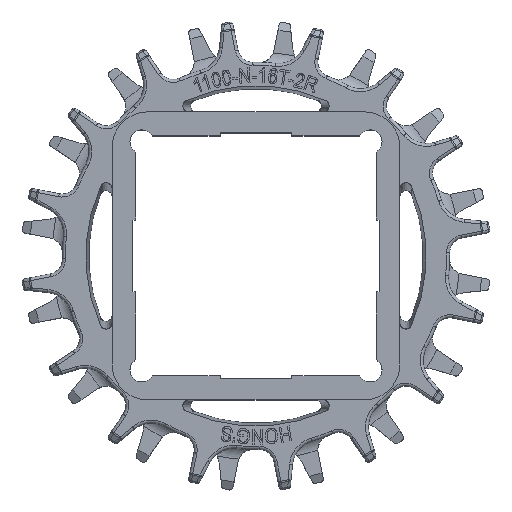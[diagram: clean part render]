
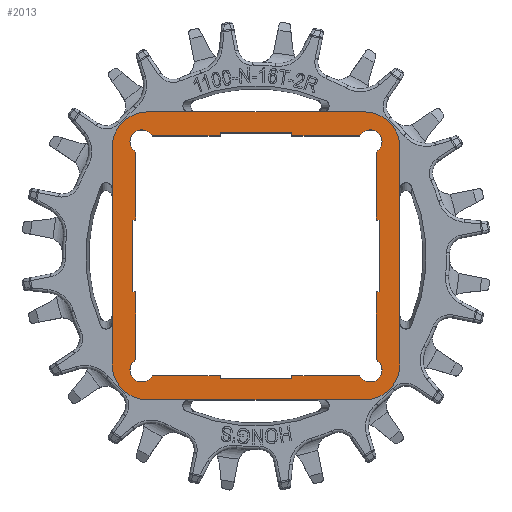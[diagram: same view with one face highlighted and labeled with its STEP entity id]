
A CAD part, top view. The second image highlights one B-rep face of the part: STEP entity #2013.
In plain terms, the highlighted planar face has unit normal (0, 0, 1).
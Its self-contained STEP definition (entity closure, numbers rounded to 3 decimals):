
#2013=ADVANCED_FACE('',(#4926,#4927),#3029,.T.);
#3029=PLANE('',#18068);
#3455=CIRCLE('',#17965,6.);
#3459=CIRCLE('',#17971,2.);
#3542=CIRCLE('',#18062,2.);
#3543=CIRCLE('',#18063,2.);
#3544=CIRCLE('',#18064,2.);
#3545=CIRCLE('',#18065,6.);
#3546=CIRCLE('',#18066,6.);
#3547=CIRCLE('',#18067,6.);
#4926=FACE_BOUND('',#5049,.T.);
#4927=FACE_BOUND('',#5050,.T.);
#5049=EDGE_LOOP('',(#7049,#7050,#7051,#7052,#7053,#7054,#7055,#7056,#7057,
#7058,#7059,#7060,#7061,#7062,#7063,#7064,#7065,#7066,#7067,#7068,#7069,
#7070,#7071,#7072));
#5050=EDGE_LOOP('',(#7073,#7074,#7075,#7076,#7077,#7078,#7079,#7080));
#7049=ORIENTED_EDGE('',*,*,#13439,.T.);
#7050=ORIENTED_EDGE('',*,*,#13643,.T.);
#7051=ORIENTED_EDGE('',*,*,#13644,.T.);
#7052=ORIENTED_EDGE('',*,*,#13645,.T.);
#7053=ORIENTED_EDGE('',*,*,#13646,.T.);
#7054=ORIENTED_EDGE('',*,*,#13647,.T.);
#7055=ORIENTED_EDGE('',*,*,#13648,.F.);
#7056=ORIENTED_EDGE('',*,*,#13649,.T.);
#7057=ORIENTED_EDGE('',*,*,#13650,.T.);
#7058=ORIENTED_EDGE('',*,*,#13651,.T.);
#7059=ORIENTED_EDGE('',*,*,#13652,.T.);
#7060=ORIENTED_EDGE('',*,*,#13653,.T.);
#7061=ORIENTED_EDGE('',*,*,#13654,.T.);
#7062=ORIENTED_EDGE('',*,*,#13655,.T.);
#7063=ORIENTED_EDGE('',*,*,#13656,.T.);
#7064=ORIENTED_EDGE('',*,*,#13657,.T.);
#7065=ORIENTED_EDGE('',*,*,#13658,.T.);
#7066=ORIENTED_EDGE('',*,*,#13659,.T.);
#7067=ORIENTED_EDGE('',*,*,#13660,.T.);
#7068=ORIENTED_EDGE('',*,*,#13661,.T.);
#7069=ORIENTED_EDGE('',*,*,#13662,.F.);
#7070=ORIENTED_EDGE('',*,*,#13500,.T.);
#7071=ORIENTED_EDGE('',*,*,#13447,.T.);
#7072=ORIENTED_EDGE('',*,*,#13435,.T.);
#7073=ORIENTED_EDGE('',*,*,#13663,.T.);
#7074=ORIENTED_EDGE('',*,*,#13274,.T.);
#7075=ORIENTED_EDGE('',*,*,#13442,.T.);
#7076=ORIENTED_EDGE('',*,*,#13499,.T.);
#7077=ORIENTED_EDGE('',*,*,#13664,.T.);
#7078=ORIENTED_EDGE('',*,*,#13665,.T.);
#7079=ORIENTED_EDGE('',*,*,#13666,.T.);
#7080=ORIENTED_EDGE('',*,*,#13667,.T.);
#11680=VERTEX_POINT('',#26295);
#11681=VERTEX_POINT('',#26297);
#11803=VERTEX_POINT('',#27036);
#11804=VERTEX_POINT('',#27038);
#11806=VERTEX_POINT('',#27044);
#11808=VERTEX_POINT('',#27050);
#11812=VERTEX_POINT('',#27062);
#11856=VERTEX_POINT('',#27365);
#11857=VERTEX_POINT('',#27369);
#11994=VERTEX_POINT('',#27844);
#11995=VERTEX_POINT('',#27846);
#11996=VERTEX_POINT('',#27848);
#11997=VERTEX_POINT('',#27850);
#11998=VERTEX_POINT('',#27852);
#11999=VERTEX_POINT('',#27854);
#12000=VERTEX_POINT('',#27856);
#12001=VERTEX_POINT('',#27858);
#12002=VERTEX_POINT('',#27860);
#12003=VERTEX_POINT('',#27862);
#12004=VERTEX_POINT('',#27864);
#12005=VERTEX_POINT('',#27866);
#12006=VERTEX_POINT('',#27868);
#12007=VERTEX_POINT('',#27870);
#12008=VERTEX_POINT('',#27872);
#12009=VERTEX_POINT('',#27874);
#12010=VERTEX_POINT('',#27876);
#12011=VERTEX_POINT('',#27878);
#12012=VERTEX_POINT('',#27880);
#12013=VERTEX_POINT('',#27883);
#12014=VERTEX_POINT('',#27885);
#12015=VERTEX_POINT('',#27887);
#12016=VERTEX_POINT('',#27889);
#13274=EDGE_CURVE('',#11681,#11680,#15668,.T.);
#13435=EDGE_CURVE('',#11804,#11803,#15693,.T.);
#13439=EDGE_CURVE('',#11803,#11806,#15697,.T.);
#13442=EDGE_CURVE('',#11680,#11808,#3455,.T.);
#13447=EDGE_CURVE('',#11812,#11804,#3459,.T.);
#13499=EDGE_CURVE('',#11808,#11856,#15707,.T.);
#13500=EDGE_CURVE('',#11857,#11812,#15708,.T.);
#13643=EDGE_CURVE('',#11806,#11994,#15782,.T.);
#13644=EDGE_CURVE('',#11994,#11995,#15783,.T.);
#13645=EDGE_CURVE('',#11995,#11996,#15784,.T.);
#13646=EDGE_CURVE('',#11996,#11997,#3542,.T.);
#13647=EDGE_CURVE('',#11997,#11998,#15785,.T.);
#13648=EDGE_CURVE('',#11999,#11998,#15786,.T.);
#13649=EDGE_CURVE('',#11999,#12000,#15787,.T.);
#13650=EDGE_CURVE('',#12000,#12001,#15788,.T.);
#13651=EDGE_CURVE('',#12001,#12002,#15789,.T.);
#13652=EDGE_CURVE('',#12002,#12003,#3543,.T.);
#13653=EDGE_CURVE('',#12003,#12004,#15790,.T.);
#13654=EDGE_CURVE('',#12004,#12005,#15791,.T.);
#13655=EDGE_CURVE('',#12005,#12006,#15792,.T.);
#13656=EDGE_CURVE('',#12006,#12007,#15793,.T.);
#13657=EDGE_CURVE('',#12007,#12008,#15794,.T.);
#13658=EDGE_CURVE('',#12008,#12009,#3544,.T.);
#13659=EDGE_CURVE('',#12009,#12010,#15795,.T.);
#13660=EDGE_CURVE('',#12010,#12011,#15796,.T.);
#13661=EDGE_CURVE('',#12011,#12012,#15797,.T.);
#13662=EDGE_CURVE('',#11857,#12012,#15798,.T.);
#13663=EDGE_CURVE('',#12013,#11681,#3545,.T.);
#13664=EDGE_CURVE('',#11856,#12014,#3546,.T.);
#13665=EDGE_CURVE('',#12014,#12015,#15799,.T.);
#13666=EDGE_CURVE('',#12015,#12016,#3547,.T.);
#13667=EDGE_CURVE('',#12016,#12013,#15800,.T.);
#15668=LINE('',#26296,#16772);
#15693=LINE('',#27037,#16797);
#15697=LINE('',#27046,#16801);
#15707=LINE('',#27366,#16811);
#15708=LINE('',#27368,#16812);
#15782=LINE('',#27843,#16886);
#15783=LINE('',#27845,#16887);
#15784=LINE('',#27847,#16888);
#15785=LINE('',#27851,#16889);
#15786=LINE('',#27853,#16890);
#15787=LINE('',#27855,#16891);
#15788=LINE('',#27857,#16892);
#15789=LINE('',#27859,#16893);
#15790=LINE('',#27863,#16894);
#15791=LINE('',#27865,#16895);
#15792=LINE('',#27867,#16896);
#15793=LINE('',#27869,#16897);
#15794=LINE('',#27871,#16898);
#15795=LINE('',#27875,#16899);
#15796=LINE('',#27877,#16900);
#15797=LINE('',#27879,#16901);
#15798=LINE('',#27881,#16902);
#15799=LINE('',#27886,#16903);
#15800=LINE('',#27890,#16904);
#16772=VECTOR('',#20082,1.);
#16797=VECTOR('',#20339,1.);
#16801=VECTOR('',#20345,1.);
#16811=VECTOR('',#20421,1.);
#16812=VECTOR('',#20424,1.);
#16886=VECTOR('',#20626,1.);
#16887=VECTOR('',#20627,1.);
#16888=VECTOR('',#20628,1.);
#16889=VECTOR('',#20631,1.);
#16890=VECTOR('',#20632,1.);
#16891=VECTOR('',#20633,1.);
#16892=VECTOR('',#20634,1.);
#16893=VECTOR('',#20635,1.);
#16894=VECTOR('',#20638,1.);
#16895=VECTOR('',#20639,1.);
#16896=VECTOR('',#20640,1.);
#16897=VECTOR('',#20641,1.);
#16898=VECTOR('',#20642,1.);
#16899=VECTOR('',#20645,1.);
#16900=VECTOR('',#20646,1.);
#16901=VECTOR('',#20647,1.);
#16902=VECTOR('',#20648,1.);
#16903=VECTOR('',#20653,1.);
#16904=VECTOR('',#20656,1.);
#17965=AXIS2_PLACEMENT_3D('',#27051,#20350,#20351);
#17971=AXIS2_PLACEMENT_3D('',#27061,#20363,#20364);
#18062=AXIS2_PLACEMENT_3D('',#27849,#20629,#20630);
#18063=AXIS2_PLACEMENT_3D('',#27861,#20636,#20637);
#18064=AXIS2_PLACEMENT_3D('',#27873,#20643,#20644);
#18065=AXIS2_PLACEMENT_3D('',#27882,#20649,#20650);
#18066=AXIS2_PLACEMENT_3D('',#27884,#20651,#20652);
#18067=AXIS2_PLACEMENT_3D('',#27888,#20654,#20655);
#18068=AXIS2_PLACEMENT_3D('',#27891,#20657,#20658);
#20082=DIRECTION('',(-1.,0.,0.));
#20339=DIRECTION('',(1.,0.,0.));
#20345=DIRECTION('',(0.,1.,0.));
#20350=DIRECTION('',(0.,0.,1.));
#20351=DIRECTION('',(1.,0.,0.));
#20363=DIRECTION('',(0.,0.,-1.));
#20364=DIRECTION('',(-1.,0.,0.));
#20421=DIRECTION('',(0.,-1.,0.));
#20424=DIRECTION('',(0.,1.,0.));
#20626=DIRECTION('',(1.,0.,0.));
#20627=DIRECTION('',(0.,-1.,0.));
#20628=DIRECTION('',(1.,0.,0.));
#20629=DIRECTION('',(0.,0.,-1.));
#20630=DIRECTION('',(0.,1.,0.));
#20631=DIRECTION('',(0.,-1.,0.));
#20632=DIRECTION('',(-1.,0.,0.));
#20633=DIRECTION('',(0.,-1.,0.));
#20634=DIRECTION('',(-1.,0.,0.));
#20635=DIRECTION('',(0.,-1.,0.));
#20636=DIRECTION('',(0.,0.,-1.));
#20637=DIRECTION('',(1.,0.,0.));
#20638=DIRECTION('',(-1.,0.,0.));
#20639=DIRECTION('',(0.,-1.,0.));
#20640=DIRECTION('',(-1.,0.,0.));
#20641=DIRECTION('',(0.,1.,0.));
#20642=DIRECTION('',(-1.,0.,0.));
#20643=DIRECTION('',(0.,0.,-1.));
#20644=DIRECTION('',(0.,-1.,0.));
#20645=DIRECTION('',(0.,1.,0.));
#20646=DIRECTION('',(-1.,0.,0.));
#20647=DIRECTION('',(0.,1.,0.));
#20648=DIRECTION('',(-1.,0.,0.));
#20649=DIRECTION('',(0.,0.,1.));
#20650=DIRECTION('',(1.,0.,0.));
#20651=DIRECTION('',(0.,0.,1.));
#20652=DIRECTION('',(1.,0.,0.));
#20653=DIRECTION('',(1.,0.,0.));
#20654=DIRECTION('',(0.,0.,1.));
#20655=DIRECTION('',(1.,0.,0.));
#20656=DIRECTION('',(0.,1.,0.));
#20657=DIRECTION('',(0.,0.,1.));
#20658=DIRECTION('',(-1.,0.,0.));
#26295=CARTESIAN_POINT('',(-18.1,24.1,12.446));
#26296=CARTESIAN_POINT('',(0.,24.1,12.446));
#26297=CARTESIAN_POINT('',(18.1,24.1,12.446));
#27036=CARTESIAN_POINT('',(-6.,20.1,12.446));
#27037=CARTESIAN_POINT('',(0.,20.1,12.446));
#27038=CARTESIAN_POINT('',(-17.368,20.1,12.446));
#27044=CARTESIAN_POINT('',(-6.,20.6,12.446));
#27046=CARTESIAN_POINT('',(-6.,0.,12.446));
#27050=CARTESIAN_POINT('',(-24.1,18.1,12.446));
#27051=CARTESIAN_POINT('',(-18.1,18.1,12.446));
#27061=CARTESIAN_POINT('',(-19.1,19.1,12.446));
#27062=CARTESIAN_POINT('',(-20.1,17.368,12.446));
#27365=CARTESIAN_POINT('',(-24.1,-18.1,12.446));
#27366=CARTESIAN_POINT('',(-24.1,0.,12.446));
#27368=CARTESIAN_POINT('',(-20.1,0.,12.446));
#27369=CARTESIAN_POINT('',(-20.1,6.,12.446));
#27843=CARTESIAN_POINT('',(0.,20.6,12.446));
#27844=CARTESIAN_POINT('',(6.,20.6,12.446));
#27845=CARTESIAN_POINT('',(6.,0.,12.446));
#27846=CARTESIAN_POINT('',(6.,20.1,12.446));
#27847=CARTESIAN_POINT('',(0.,20.1,12.446));
#27848=CARTESIAN_POINT('',(17.368,20.1,12.446));
#27849=CARTESIAN_POINT('',(19.1,19.1,12.446));
#27850=CARTESIAN_POINT('',(20.1,17.368,12.446));
#27851=CARTESIAN_POINT('',(20.1,0.,12.446));
#27852=CARTESIAN_POINT('',(20.1,6.,12.446));
#27853=CARTESIAN_POINT('',(0.,6.,12.446));
#27854=CARTESIAN_POINT('',(20.6,6.,12.446));
#27855=CARTESIAN_POINT('',(20.6,0.,12.446));
#27856=CARTESIAN_POINT('',(20.6,-6.,12.446));
#27857=CARTESIAN_POINT('',(0.,-6.,12.446));
#27858=CARTESIAN_POINT('',(20.1,-6.,12.446));
#27859=CARTESIAN_POINT('',(20.1,0.,12.446));
#27860=CARTESIAN_POINT('',(20.1,-17.368,12.446));
#27861=CARTESIAN_POINT('',(19.1,-19.1,12.446));
#27862=CARTESIAN_POINT('',(17.368,-20.1,12.446));
#27863=CARTESIAN_POINT('',(0.,-20.1,12.446));
#27864=CARTESIAN_POINT('',(6.,-20.1,12.446));
#27865=CARTESIAN_POINT('',(6.,0.,12.446));
#27866=CARTESIAN_POINT('',(6.,-20.6,12.446));
#27867=CARTESIAN_POINT('',(0.,-20.6,12.446));
#27868=CARTESIAN_POINT('',(-6.,-20.6,12.446));
#27869=CARTESIAN_POINT('',(-6.,0.,12.446));
#27870=CARTESIAN_POINT('',(-6.,-20.1,12.446));
#27871=CARTESIAN_POINT('',(0.,-20.1,12.446));
#27872=CARTESIAN_POINT('',(-17.368,-20.1,12.446));
#27873=CARTESIAN_POINT('',(-19.1,-19.1,12.446));
#27874=CARTESIAN_POINT('',(-20.1,-17.368,12.446));
#27875=CARTESIAN_POINT('',(-20.1,0.,12.446));
#27876=CARTESIAN_POINT('',(-20.1,-6.,12.446));
#27877=CARTESIAN_POINT('',(0.,-6.,12.446));
#27878=CARTESIAN_POINT('',(-20.6,-6.,12.446));
#27879=CARTESIAN_POINT('',(-20.6,0.,12.446));
#27880=CARTESIAN_POINT('',(-20.6,6.,12.446));
#27881=CARTESIAN_POINT('',(0.,6.,12.446));
#27882=CARTESIAN_POINT('',(18.1,18.1,12.446));
#27883=CARTESIAN_POINT('',(24.1,18.1,12.446));
#27884=CARTESIAN_POINT('',(-18.1,-18.1,12.446));
#27885=CARTESIAN_POINT('',(-18.1,-24.1,12.446));
#27886=CARTESIAN_POINT('',(0.,-24.1,12.446));
#27887=CARTESIAN_POINT('',(18.1,-24.1,12.446));
#27888=CARTESIAN_POINT('',(18.1,-18.1,12.446));
#27889=CARTESIAN_POINT('',(24.1,-18.1,12.446));
#27890=CARTESIAN_POINT('',(24.1,0.,12.446));
#27891=CARTESIAN_POINT('',(0.,0.,12.446));
